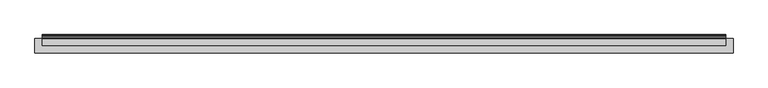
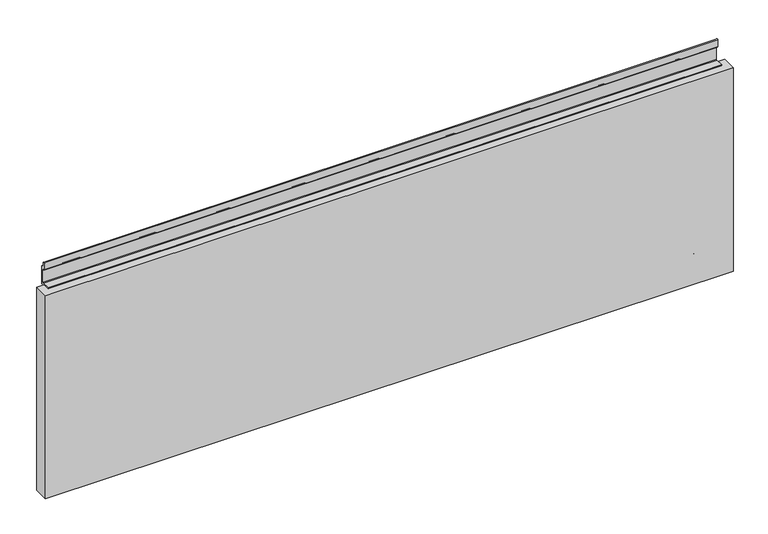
"""IFC4 building model written with IfcOpenShell, lengths in millimetres: furniture geometry, Geiger_GeigerOneCasegoods_WallTileAcceptsTileAbove : Vertical Veneer 48Wx 1.25Dx 15H."""

from ifc_helpers import new_model, si_unit, point, frame, frame_2d, origin, origin_with_axes, place, context, project, spatial, polyline, circle_curve, trimmed, segment, composite_curve, outline, extrude, source, transform, mapped, element, save


def furniture_09248376(model_context):
    return source(origin(), model_context, "Body", "SweptSolid", [
        extrude(outline(polyline([(1219.2, 0.0), (1219.2, -26.0), (0.0, -26.0), (0.0, 0.0), (1219.2, 0.0)])), origin_with_axes(), (0.0, 0.0, 1.0), 381.0),
        extrude(outline(composite_curve([segment(polyline([(2.8956, 46.3366), (3.7084, 45.5238), (5.588, 45.5238), (6.4008, 44.7364), (6.4008, 31.3252)]), True, "CONTINUOUS"), segment(trimmed(circle_curve(frame_2d((5.6011704, 31.3252)), 0.7996296), [point((6.4008, 31.3252))], [point((5.0292, 30.7664))], False, "CARTESIAN"), True, "CONTINUOUS"), segment(polyline([(5.0292, 30.7664), (3.5052, 32.2904), (3.5052, 39.2246), (2.6924, 40.012), (0.7874, 40.012), (0.0, 40.8248), (0.0, 72.524), (1.2954, 72.524), (2.8956, 70.9238), (2.8956, 46.3366)]), True, "CONTINUOUS")], self_intersect=False)), frame((1093.2047, 0.0, 0.0), z_axis=(1.0, 0.0, 0.0), x_axis=(0.0, 1.0, 0.0)), (0.0, 0.0, 1.0), 75.9906),
        extrude(outline(composite_curve([segment(polyline([(2.8956, 46.3366), (3.7084, 45.5238), (5.588, 45.5238), (6.4008, 44.7364), (6.4008, 31.3252)]), True, "CONTINUOUS"), segment(trimmed(circle_curve(frame_2d((5.6011704, 31.3252)), 0.7996296), [point((6.4008, 31.3252))], [point((5.0292, 30.7664))], False, "CARTESIAN"), True, "CONTINUOUS"), segment(polyline([(5.0292, 30.7664), (3.5052, 32.2904), (3.5052, 39.2246), (2.6924, 40.012), (0.7874, 40.012), (0.0, 40.8248), (0.0, 72.524), (1.2954, 72.524), (2.8956, 70.9238), (2.8956, 46.3366)]), True, "CONTINUOUS")], self_intersect=False)), frame((571.6, 0.0, 0.0), z_axis=(1.0, 0.0, 0.0), x_axis=(0.0, 1.0, 0.0)), (0.0, 0.0, 1.0), 76.0),
        extrude(outline(composite_curve([segment(polyline([(3.5052, 32.2904), (3.5052, 39.2246), (2.6924, 40.012), (0.7874, 40.012), (0.0, 40.8248), (0.0, 72.524), (1.2954, 72.524), (2.8956, 70.9238), (2.8956, 46.3366), (3.7084, 45.5238), (5.588, 45.5238), (6.4008, 44.7364), (6.4008, 31.3252)]), True, "CONTINUOUS"), segment(trimmed(circle_curve(frame_2d((5.6011704, 31.3252)), 0.7996296), [point((6.4008, 31.3252))], [point((5.0292, 30.7664))], False, "CARTESIAN"), True, "CONTINUOUS"), segment(polyline([(5.0292, 30.7664), (3.5052, 32.2904)]), True, "CONTINUOUS")], self_intersect=False)), frame((49.9953, 0.0, 0.0), z_axis=(1.0, 0.0, 0.0), x_axis=(0.0, 1.0, 0.0)), (0.0, 0.0, 1.0), 76.0094),
        extrude(outline(composite_curve([segment(polyline([(2.8956, 421.2322), (2.8956, 414.298), (3.683, 413.5106), (5.588, 413.5106), (6.4008, 412.6978), (6.4008, 379.3984), (3.7084, 379.3984), (2.8956, 378.611), (2.8956, 364.895), (3.7084, 364.1076), (6.4008, 364.1076), (6.4008, 361.1866), (0.7874, 361.1866), (0.0, 361.9994), (0.0, 380.9986), (-12.5984, 380.9986), (-12.5984, 382.5988), (2.6924, 382.5988), (3.5052, 383.3862), (3.5052, 407.2114), (2.6924, 407.9988), (0.7874, 407.9988), (0.0, 408.8116), (0.0, 422.224282)]), True, "CONTINUOUS"), segment(trimmed(circle_curve(frame_2d((0.788463, 422.224282)), 0.788463), [point((0.0, 422.224282))], [point((1.3459905, 422.7818095))], False, "CARTESIAN"), True, "CONTINUOUS"), segment(polyline([(1.3459905, 422.7818095), (2.8956, 421.2322)]), True, "CONTINUOUS")], self_intersect=False)), frame((12.5, 0.0, 0.0), z_axis=(1.0, 0.0, 0.0), x_axis=(0.0, 1.0, 0.0)), (0.0, 0.0, 1.0), 1194.2),
    ])


if __name__ == "__main__":
    model = new_model("IFC4")
    model_context = context("Model", 3, world=origin())
    ifc_project = project(units=[si_unit("LENGTHUNIT", "METRE", prefix="MILLI")], contexts=[model_context])
    site = spatial("IfcSite", under=ifc_project)
    building = spatial("IfcBuilding", under=site)
    placement = place(None, origin())
    furniture_shape = furniture_09248376(model_context)
    element("IfcFurniture", 1, ObjectType="Geiger_GeigerOneCasegoods_WallTileAcceptsTileAbove : Vertical Veneer 48Wx 1.25Dx 15H", at=placement, inside=building, context=model_context, shape_type="MappedRepresentation", body=[
        mapped(furniture_shape, transform((0.0, 0.0, 0.0), x_axis=(1.0, 0.0, 0.0), y_axis=(0.0, 1.0, 0.0), z_axis=(0.0, 0.0, 1.0))),
    ])
    save(model, "model.ifc")
